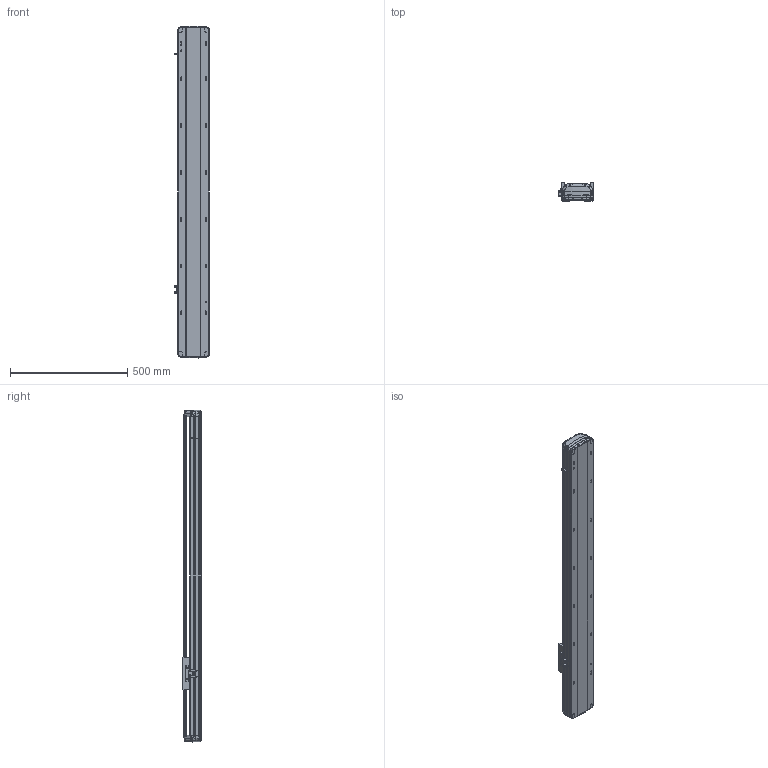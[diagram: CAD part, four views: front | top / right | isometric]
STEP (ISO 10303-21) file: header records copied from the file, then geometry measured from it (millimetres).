
FILE_DESCRIPTION (( 'STEP AP214' ), '1' );
FILE_NAME ('RTH14-XX-1000-B-M20B-C4.STEP', '2025-10-24T08:41:07', ( 'Microsoft' ), ( 'Microsoft' ), 'SwSTEP 2.0', 'SolidWorks 2018', '' );
FILE_SCHEMA (( 'AUTOMOTIVE_DESIGN' ));
Length unit declared in the file: millimetre
Products named in the file (7): RTH14-XX-1000-B-M20B-C4; N_RTH14-GY-001P^RTH14-XX-XX-B-M20B-C4; N_RTH13-L-012感应片（外置）^RTH14-XX-XX-B-M20B-C4; N_RTH14-B-011PB菁釱^RTH14-XX-XX-B-M20B-C4; N_RTH14-B-007B奻裔^RTH14-XX-XX-B-M20B-C4; N_RTH14-R-004-SFSR16賑釱^RTH14-XX-XX-B-M20B-C4; N_OMRON EE-SX672 传感器^RTH14-XX-XX-B-M20B-C4
Assembly tree (9 placements, depth 2):
  RTH14-XX-1000-B-M20B-C4
    N_RTH14-B-011PB菁釱^RTH14-XX-XX-B-M20B-C4
    N_RTH14-B-007B奻裔^RTH14-XX-XX-B-M20B-C4
    N_RTH13-L-012感应片（外置）^RTH14-XX-XX-B-M20B-C4
    N_OMRON EE-SX672 传感器^RTH14-XX-XX-B-M20B-C4  x3
    N_RTH14-R-004-SFSR16賑釱^RTH14-XX-XX-B-M20B-C4
    N_RTH14-GY-001P^RTH14-XX-XX-B-M20B-C4  x2
Bounding box: 148.5 x 78.02 x 1418.74 mm (x, y, z)
Volume: 5702078.5 mm3; surface area: 1305552.3 mm2
Topology: 9 solids, 9 shells, 1954 faces, 5512 edges, 3590 vertices
Faces by surface type: plane 987, cylinder 453, bspline 450, cone 56, torus 8
Entity records: 47988 total; most frequent: CARTESIAN_POINT 21194, ORIENTED_EDGE 6040, DIRECTION 4503, EDGE_CURVE 3020, VERTEX_POINT 1976, VECTOR 1683, LINE 1683, AXIS2_PLACEMENT_3D 1410
